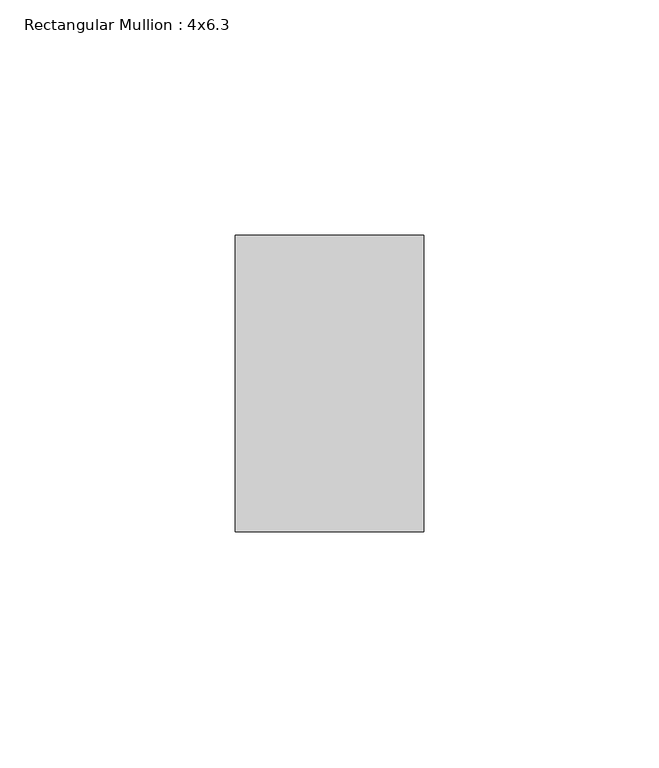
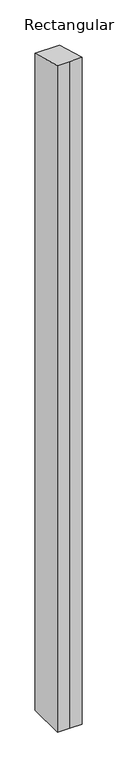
"""IFC4 building model written with IfcOpenShell, lengths in millimetres: member geometry, Rectangular Mullion : 4x6.3."""

from ifc_helpers import new_model, si_unit, origin, place, context, project, spatial, faceted_brep, source, transform, mapped, element, save


def rectangular_mullion_4x6_3_2e4860fa(model_context):
    return source(origin(), model_context, "Body", "Brep", [
        faceted_brep([(-20.0, 20.0, -1157.2586246), (-20.0, 83.0, -1157.2586246), (20.0, 83.0, -1157.2586246), (20.0, 20.0, -1157.2586246), (0.0, 20.0, -1157.2586246), (0.0, 20.0, -5.4283368), (-20.0, 20.0, -5.4283368), (20.0, 20.0, -5.4283368), (20.0, 83.0, -22.5275978), (-20.0, 83.0, -22.5275978)], [[[0, 1, 2, 3, 4]], [[5, 6, 0, 4]], [[7, 5, 4, 3]], [[8, 7, 3, 2]], [[9, 8, 2, 1]], [[6, 9, 1, 0]], [[6, 5, 7, 8, 9]]]),
    ])


if __name__ == "__main__":
    model = new_model("IFC4")
    model_context = context("Model", 3, world=origin())
    ifc_project = project(units=[si_unit("LENGTHUNIT", "METRE", prefix="MILLI")], contexts=[model_context])
    site = spatial("IfcSite", under=ifc_project)
    building = spatial("IfcBuilding", under=site)
    placement = place(None, origin())
    rectangular_mullion_4x6_3_shape = rectangular_mullion_4x6_3_2e4860fa(model_context)
    element("IfcMember", 1, ObjectType="Rectangular Mullion : 4x6.3", at=placement, inside=building, context=model_context, shape_type="MappedRepresentation", body=[
        mapped(rectangular_mullion_4x6_3_shape, transform((0.0, 0.0, 0.0), x_axis=(1.0, 0.0, 0.0), y_axis=(0.0, 1.0, 0.0), z_axis=(0.0, 0.0, 1.0))),
    ])
    save(model, "model.ifc")
